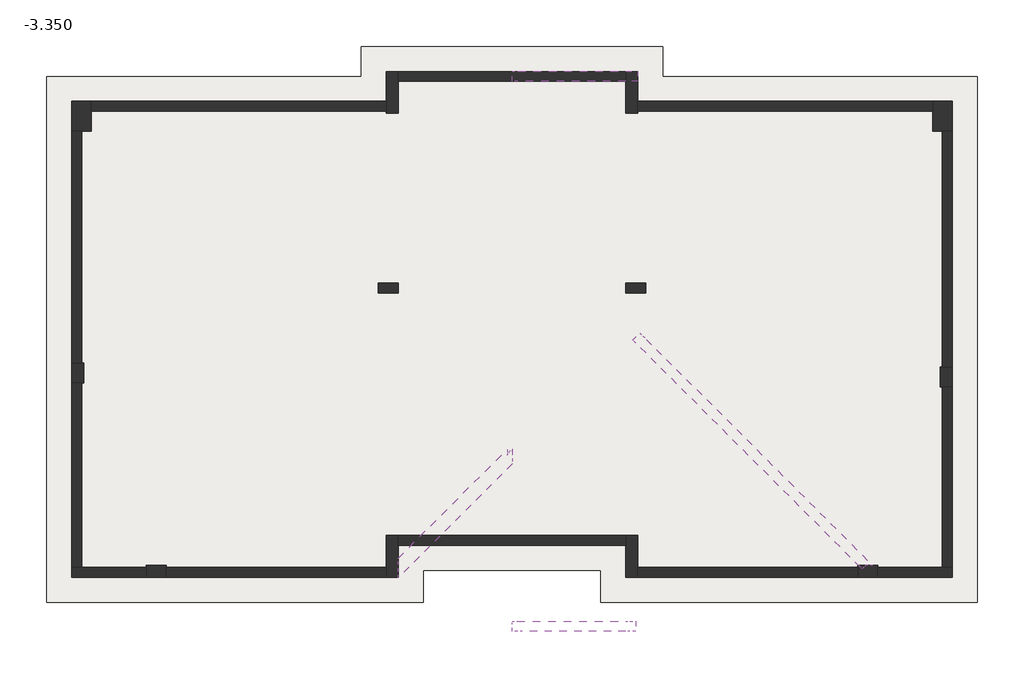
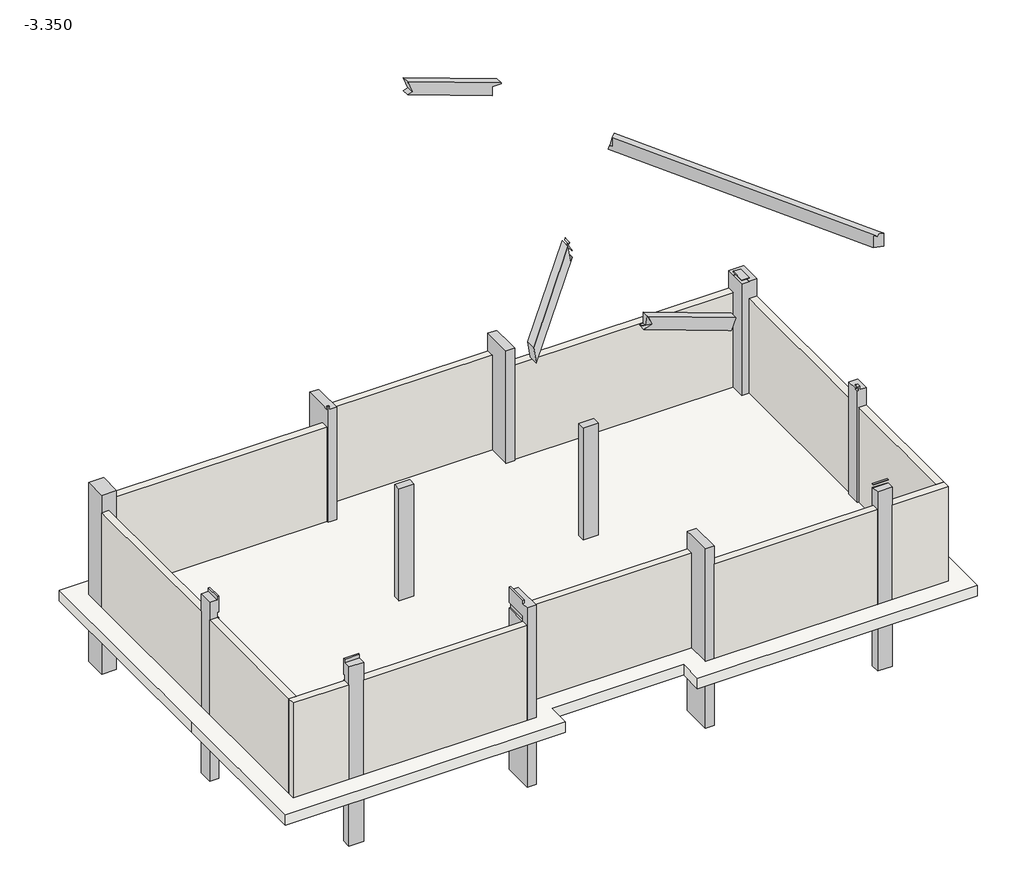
# One storey: 24 columns, 12 walls, 4 beams, 1 slab.
"""IFC4 building model written with IfcOpenShell, lengths in millimetres."""

import ifcopenshell
import ifcopenshell.guid

model = None  # the IFC model being written
_history = None  # IfcOwnerHistory: only IFC2X3 demands one
_inside = {}  # id of a spatial element -> (the spatial element, [elements in it])
_under = {}  # id of a project, library or spatial element -> (it, [spatial elements below it])
_declared = {}  # id of a project -> (the project, [libraries it declares])
_typed = {}  # id of a type object -> (the type object, [elements of that type])
_made_of = {}  # id of a material, layer set ... -> (it, [elements and type objects made of it])


def new_model(schema):
    """Start an empty IFC model of exactly this schema.

    Asked for "IFC4X3", IfcOpenShell would pick the latest addendum, in which some entities
    have other attributes; the version numbers below select the first issue.
    IFC2X3 requires an IfcOwnerHistory on every rooted entity: one is made here for all.
    """
    global model, _history
    if schema == "IFC4X3":
        model = ifcopenshell.file(schema_version=(4, 3, 0, 0))
    else:
        model = ifcopenshell.file(schema=schema)
    _inside.clear()
    _under.clear()
    _declared.clear()
    _typed.clear()
    _made_of.clear()
    _history = None
    if model.schema == "IFC2X3":
        org = make("IfcOrganization", Name="unknown")
        user = make(
            "IfcPersonAndOrganization",
            ThePerson=make("IfcPerson", FamilyName="unknown"),
            TheOrganization=org,
        )
        app = make(
            "IfcApplication",
            ApplicationDeveloper=org,
            Version="unknown",
            ApplicationFullName="unknown",
            ApplicationIdentifier="unknown",
        )
        _history = make(
            "IfcOwnerHistory",
            OwningUser=user,
            OwningApplication=app,
            ChangeAction="ADDED",
            CreationDate=0,
        )
    return model


def make(cls, **values):
    """One entity of the class cls with the attributes given. An attribute that is None is left unset."""
    return model.create_entity(
        cls, **{name: value for name, value in values.items() if value is not None}
    )


def rooted(cls, **values):
    """An entity with a GlobalId (a new one), such as an element, a storey or a relation."""
    return make(cls, GlobalId=ifcopenshell.guid.new(), OwnerHistory=_history, **values)


def si_unit(unit_type, name, prefix=None):
    """IfcSIUnit, for example si_unit("LENGTHUNIT", "METRE", prefix="MILLI")."""
    return make("IfcSIUnit", UnitType=unit_type, Prefix=prefix, Name=name)


def assignment(units):
    """IfcUnitAssignment: the units of a project."""
    return None if units is None else make("IfcUnitAssignment", Units=units)


def point(xyz):
    """IfcCartesianPoint."""
    return None if xyz is None else make("IfcCartesianPoint", Coordinates=xyz)


def direction(xyz):
    """IfcDirection."""
    return None if xyz is None else make("IfcDirection", DirectionRatios=xyz)


def frame(location, z_axis=None, x_axis=None):
    """IfcAxis2Placement3D, a coordinate frame: its origin and axes. An axis left out is left unset."""
    return make(
        "IfcAxis2Placement3D",
        Location=point(location),
        Axis=direction(z_axis),
        RefDirection=direction(x_axis),
    )


def origin():
    """The frame at (0, 0, 0) with its axes left unset."""
    return frame((0.0, 0.0, 0.0))


def place(relative_to, where):
    """IfcLocalPlacement: puts the frame where relative to a parent placement (None: the world)."""
    return make(
        "IfcLocalPlacement", PlacementRelTo=relative_to, RelativePlacement=where
    )


def context(
    kind, dimensions, precision=None, world=None, true_north=None, identifier=None
):
    """IfcGeometricRepresentationContext, for example the 3D "Model" context."""
    return make(
        "IfcGeometricRepresentationContext",
        ContextIdentifier=identifier,
        ContextType=kind,
        CoordinateSpaceDimension=dimensions,
        Precision=precision,
        WorldCoordinateSystem=world,
        TrueNorth=true_north,
    )


def project(units=None, contexts=None):
    """IfcProject with its units and contexts."""
    return rooted(
        "IfcProject",
        Name="project",
        RepresentationContexts=contexts,
        UnitsInContext=assignment(units),
    )


def spatial(cls, under=None, at=None, **own):
    """A site, building, storey or space (cls), placed at a placement, below another one or the project."""
    s = rooted(cls, ObjectPlacement=at, **own)
    if under is not None:
        _under.setdefault(under.id(), (under, []))[1].append(s)
    return s


def polyline(points):
    """IfcPolyline through the points."""
    return make("IfcPolyline", Points=[point(p) for p in points])


def outline(outer, holes=None, kind="AREA"):
    """IfcArbitraryClosedProfileDef: a profile drawn as a closed curve; with holes, ...WithVoids."""
    if holes is None:
        return make("IfcArbitraryClosedProfileDef", ProfileType=kind, OuterCurve=outer)
    return make(
        "IfcArbitraryProfileDefWithVoids",
        ProfileType=kind,
        OuterCurve=outer,
        InnerCurves=holes,
    )


def extrude(swept, where, along, depth):
    """IfcExtrudedAreaSolid: the profile swept, set in the frame where, extruded along a direction by depth."""
    return make(
        "IfcExtrudedAreaSolid",
        SweptArea=swept,
        Position=where,
        ExtrudedDirection=direction(along),
        Depth=depth,
    )


def faces_of(points, faces, orient=None, outer=None):
    """IfcFace entities. A face is a list of loops; a loop is a list of indices into points, from 0.

    orient and outer hold one flag for each loop. By default every Orientation is true, the
    first loop of a face is its IfcFaceOuterBound and the others are IfcFaceBound.
    """
    made = []
    for i, loops in enumerate(faces):
        bounds = []
        for j, loop in enumerate(loops):
            is_outer = j == 0 if outer is None else outer[i][j]
            bounds.append(
                make(
                    "IfcFaceOuterBound" if is_outer else "IfcFaceBound",
                    Bound=make("IfcPolyLoop", Polygon=[points[k] for k in loop]),
                    Orientation=True if orient is None else orient[i][j],
                )
            )
        made.append(make("IfcFace", Bounds=bounds))
    return made


def faceted_brep(points, faces, orient=None, outer=None, voids=None):
    """IfcFacetedBrep: a solid bounded by flat faces; with voids (closed shells), ...WithVoids."""
    shared = [point(p) for p in points]
    hull = make("IfcClosedShell", CfsFaces=faces_of(shared, faces, orient, outer))
    if voids is None:
        return make("IfcFacetedBrep", Outer=hull)
    return make(
        "IfcFacetedBrepWithVoids",
        Outer=hull,
        Voids=[
            make(cls, CfsFaces=faces_of(shared, fs, o, b)) for cls, fs, o, b in voids
        ],
    )


def shape(context_of_items, identifier, shape_type, items):
    """IfcShapeRepresentation: the items that make up one representation, for example the "Body"."""
    return make(
        "IfcShapeRepresentation",
        ContextOfItems=context_of_items,
        RepresentationIdentifier=identifier,
        RepresentationType=shape_type,
        Items=items,
    )


def made_of(thing, what):
    """Note that an element or type object is made of a material, layer set ...; save() writes the relation."""
    if what is not None:
        _made_of.setdefault(what.id(), (what, []))[1].append(thing)
    return thing


def element(
    cls,
    number,
    at=None,
    inside=None,
    cuts=None,
    type_object=None,
    material=None,
    context=None,
    identifier="Body",
    shape_type=None,
    held_by="IfcProductDefinitionShape",
    body=None,
    shapes=None,
    **own,
):
    """One element of the class cls, such as IfcWall. Its Tag is "e" and its number.

    at: its placement. inside: the storey or other place that contains it. cuts: it is an
    opening in that element (IfcRelVoidsElement). A single representation is given by context,
    identifier, shape_type and body (its items); several are given by shapes. held_by: the class
    of the entity that holds the representations. save() writes the other relations.
    """
    e = rooted(cls, Tag="e%d" % number, ObjectPlacement=at, **own)
    if body is not None:
        shapes = [shape(context, identifier, shape_type, body)]
    if shapes is not None:
        e.Representation = make(held_by, Representations=shapes)
    if inside is not None:
        _inside.setdefault(inside.id(), (inside, []))[1].append(e)
    if cuts is not None:
        rooted(
            "IfcRelVoidsElement", RelatingBuildingElement=cuts, RelatedOpeningElement=e
        )
    if type_object is not None:
        _typed.setdefault(type_object.id(), (type_object, []))[1].append(e)
    return made_of(e, material)


def aggregate(whole, parts):
    """IfcRelAggregates: a whole, such as a stair, and the parts it consists of."""
    return rooted("IfcRelAggregates", RelatingObject=whole, RelatedObjects=parts)


def save(model, path):
    """Write the relations noted so far, then the file.

    IfcRelAggregates (storeys below a building ...), IfcRelContainedInSpatialStructure (elements
    in a storey), IfcRelDefinesByType, IfcRelAssociatesMaterial and IfcRelDeclares: one each for
    every whole, place, type object, material and project.
    """
    for whole, parts in _under.values():
        aggregate(whole, parts)
    for where, things in _inside.values():
        rooted(
            "IfcRelContainedInSpatialStructure",
            RelatedElements=things,
            RelatingStructure=where,
        )
    for kind, things in _typed.values():
        rooted("IfcRelDefinesByType", RelatedObjects=things, RelatingType=kind)
    for what, things in _made_of.values():
        rooted("IfcRelAssociatesMaterial", RelatedObjects=things, RelatingMaterial=what)
    for by, libraries in _declared.values():
        rooted("IfcRelDeclares", RelatingContext=by, RelatedDefinitions=libraries)
    model.write(path)


model = new_model("IFC4")

# Units and contexts
model_context = context("Model", 3, world=origin())
ifc_project = project(units=[si_unit("LENGTHUNIT", "METRE", prefix="MILLI")], contexts=[model_context])

# Site, building, storey
site = spatial("IfcSite", under=ifc_project)
building = spatial("IfcBuilding", under=site)
storey = spatial("IfcBuildingStorey", under=building, Name="-3.350", Elevation=-3350.0)

# Beams
placement = place(None, origin())
element("IfcBeam", 1, ObjectType="混凝土 - 矩形梁 : 200X400", at=placement, inside=storey, context=model_context, shape_type="SweptSolid", body=[
    extrude(outline(polyline([(7019.4529888, -2106.1435581), (7936.0669729, -4624.5197818), (7607.1745556, -4504.8127316), (7563.6047525, -4624.5197818), (6733.7526184, -2344.5197818), (6999.7970615, -2344.5197818), (6999.7970615, -2106.1435581), (7019.4529888, -2106.1435581)])), frame((0.0, 3246.0461731, 0.0), z_axis=(0.0, 1.0, 0.0), x_axis=(0.0, 0.0, 1.0)), (0.0, 0.0, 1.0), 200.0),
])
element("IfcBeam", 2, ObjectType="混凝土 - 矩形梁 : 200X400", at=placement, inside=storey, context=model_context, shape_type="Brep", body=[
    faceted_brep([(-2148.8244688, -7573.9538269, 7034.9875699), (-2148.8244688, -7773.9538269, 7034.9875699), (-2154.6434683, -7773.9538269, 7019.0), (-2268.531519, -7773.9538269, 6706.0951526), (-2268.531519, -7573.9538269, 6706.0951526), (-2154.6434683, -7573.9538269, 7019.0), (-4524.5197818, -7573.9538269, 7899.6699495), (-4524.5197818, -7765.8610629, 7899.6699495), (-4509.2494173, -7773.9538269, 7894.1119913), (-2344.5197818, -7573.9538269, 6733.7526184), (-4624.5197818, -7573.9538269, 7563.6047525), (-4624.5197818, -7573.9538269, 7586.0669729), (-4524.5197818, -7573.9538269, 7586.0669729), (-2344.5197818, -7773.9538269, 6733.7526184), (-4624.5197818, -7773.9538269, 7563.6047525), (-4624.5197818, -7630.0487215, 7563.6047525), (-4416.5105095, -7773.9538269, 7639.3139361), (-4524.5197818, -7699.2307843, 7600.001776), (-4562.8053385, -7672.7440464, 7586.0669729), (-4524.5197818, -7696.1324245, 7586.0669729), (-4624.5197818, -7635.0431257, 7586.0669729)], [[[0, 1, 2, 3, 4, 5]], [[1, 0, 6, 7, 8]], [[0, 5, 4, 9, 10, 11, 12, 6]], [[4, 3, 13, 14, 15, 10, 9]], [[3, 2, 1, 8, 16, 14, 13]], [[15, 14, 16, 17, 18]], [[19, 17, 7, 6, 12]], [[18, 19, 12, 11, 20]], [[10, 15, 20, 11]], [[15, 18, 20]], [[17, 19, 18]], [[16, 8, 7, 17]]]),
])
element("IfcBeam", 3, ObjectType="混凝土 - 矩形梁 : 200X400", at=placement, inside=storey, context=model_context, shape_type="Brep", body=[
    faceted_brep([(-2065.49374, -1791.5585125, 8309.6279319), (-2206.9150962, -1932.9798687, 8309.6279319), (-2192.0651085, -1947.8298564, 8391.2279437), (-2144.5197818, -1893.024185, 8371.2803106), (-2144.5197818, -1903.5020917, 8400.0681226), (-2144.5197818, -1950.3866983, 8528.8825206), (-2144.5197818, -1993.9538269, 8648.5822228), (-2097.3173736, -1946.7514188, 8648.5822228), (-2003.8091037, -1853.2431488, 8648.5822228), (-2056.4150821, -1800.6371704, 8359.5147471), (2596.9015745, -6453.9538269, 6974.0604794), (2495.4802182, -6352.5324707, 7010.9748342), (-1933.0984255, -1923.9538269, 8622.8456407), (-2144.5197818, -1995.3751832, 8648.3235571), (2354.058862, -6493.9538269, 7010.9748342), (2384.7695401, -6524.664505, 6999.7970615), (2415.4802182, -6493.9538269, 6999.7970615), (2455.4802182, -6453.9538269, 6999.7970615), (2495.4802182, -6453.9538269, 6992.5176568), (2314.058862, -6453.9538269, 6664.1279812), (2314.058862, -6453.9538269, 6999.7970615), (2354.058862, -6493.9538269, 6999.7970615), (-2144.5197818, -1995.3751832, 8422.9550386), (-2144.5197818, -1995.3751832, 8419.5778433), (-2144.5197818, -1995.3751832, 8405.0), (-2154.2266948, -1985.6682702, 8405.0), (2596.9015745, -6453.9538269, 6612.6548171), (2596.9015745, -6453.9538269, 6669.0), (-2144.5197818, -1985.6682702, 8405.0)], [[[0, 1, 2, 3, 4, 5, 6, 7, 8, 9]], [[10, 11, 12, 8, 7, 6, 13, 14, 15, 16, 17, 18]], [[1, 19, 20, 21, 15, 14, 13, 22, 23, 24, 25, 2]], [[1, 0, 26, 19]], [[0, 9, 8, 12, 11, 10, 27, 26]], [[17, 20, 19, 26, 27, 10, 18]], [[20, 17, 16, 15, 21]], [[13, 6, 5, 4, 3, 28, 24, 23, 22]], [[3, 2, 25, 28]], [[24, 28, 25]]]),
])
element("IfcBeam", 4, ObjectType="混凝土 - 矩形梁 : 200X400", at=placement, inside=storey, context=model_context, shape_type="Brep", body=[
    faceted_brep([(-6904.5197818, -6310.2321874, 7126.4342165), (-6904.5197818, -6584.678701, 7126.4342165), (-4724.5197818, -4404.678701, 7919.8893272), (-4724.5197818, -4168.0656454, 7919.8893272), (-4724.5197818, -4130.2321874, 7919.8893272), (-6904.5197818, -6693.9538269, 6786.4303824), (-6899.3038196, -6699.1697891, 6755.870451), (-4624.5197818, -4424.3857512, 7583.8241302), (-4624.5197818, -4423.6649154, 7586.0669729), (-4724.5197818, -4511.9671376, 7586.0669729), (-6904.5197818, -6693.9538269, 6753.9719961), (-6904.5197818, -6429.9392375, 6753.9719961), (-4624.5197818, -4149.9392375, 7583.8241302), (-4724.5197818, -4147.9737646, 7864.6873383), (-4724.5197818, -4213.3350144, 7661.319231), (-4737.7284492, -4236.6621081, 7625.0287154), (-4724.5197818, -4226.5436818, 7620.2211536), (-4724.5197818, -4237.5206239, 7586.0669729), (-4630.6819414, -4154.6597257, 7586.0669729), (-4724.5197818, -4324.3857512, 7620.2211536), (-4724.5197818, -4311.1770838, 7661.319231), (-4630.6819414, -4418.2235915, 7586.0669729), (-4737.7284492, -4311.1770838, 7625.0287154)], [[[0, 1, 2, 3, 4]], [[5, 6, 7, 8, 9, 2, 1]], [[6, 10, 11, 12, 7]], [[11, 0, 4, 13, 14, 15, 16, 17, 18, 12]], [[6, 5, 10]], [[1, 0, 11, 10, 5]], [[9, 17, 16, 19, 20, 14, 13, 4, 3, 2]], [[7, 21, 8]], [[21, 7, 12, 18]], [[20, 22, 15, 14]], [[17, 9, 8, 21, 18]], [[22, 20, 19]], [[15, 22, 19, 16]]]),
    faceted_brep([(-4511.3111143, -4173.9538269, 7625.0287154), (-4493.1325551, -4018.5520109, 7631.6451699), (-4524.5197818, -4018.5520109, 7717.8808663), (-4524.5197818, -4085.6516048, 7693.4586114), (-4524.5197818, -4173.9538269, 7661.319231), (-4524.5197818, -4213.3350144, 7661.319231), (-4511.3111143, -4236.6621081, 7625.0287154), (-4524.5197818, -4049.9392375, 7620.2211536), (-4524.5197818, -4058.9953501, 7620.2211536), (-4524.5197818, -4226.5436818, 7620.2211536)], [[[0, 1, 2, 3, 4]], [[0, 4, 5, 6]], [[2, 7, 8, 9, 5, 4, 3]], [[1, 0, 6, 9, 8, 7]], [[2, 1, 7]], [[6, 5, 9]]]),
    faceted_brep([(-4624.5197818, -4311.1770838, 7936.0669729), (-4680.0720654, -4360.2309846, 7936.0669729), (-4680.0720654, -4173.9538269, 7936.0669729), (-4624.5197818, -4173.9538269, 7936.0669729), (-4631.0181645, -4311.1770838, 7953.9211327), (-4631.0181645, -4173.9538269, 7953.9211327), (-4624.5197818, -4118.4015433, 7956.2863506)], [[[0, 1, 2, 3]], [[4, 5, 6, 2, 1]], [[0, 4, 1]], [[5, 3, 6]], [[5, 4, 0, 3]], [[3, 2, 6]]]),
    faceted_brep([(-4618.3576221, -4154.6597257, 7586.0669729), (-4618.3576221, -4143.7770779, 7586.0669729), (-4624.5197818, -4149.2184018, 7586.0669729), (-4624.5197818, -4149.9392375, 7583.8241302)], [[[0, 1, 2]], [[1, 0, 3]], [[2, 1, 3]], [[3, 0, 2]]]),
])

# Columns
element("IfcColumn", 5, ObjectType="混凝土 - 矩形 - 柱 : KZ1  200X400", at=placement, inside=storey, context=model_context, shape_type="SweptSolid", body=[
    extrude(outline(polyline([(-7304.5197818, -793.9538269), (-6904.5197818, -793.9538269), (-6904.5197818, -993.9538269), (-7304.5197818, -993.9538269), (-7304.5197818, -793.9538269)])), frame((0.0, 0.0, -5250.0), z_axis=(0.0, 0.0, 1.0), x_axis=(1.0, 0.0, 0.0)), (0.0, 0.0, 1.0), 1600.0),
])
element("IfcColumn", 6, ObjectType="混凝土 - 矩形 - 柱 : KZ1  200X400", at=placement, inside=storey, context=model_context, shape_type="SweptSolid", body=[
    extrude(outline(polyline([(-1944.5197818, -793.9538269), (-1944.5197818, -993.9538269), (-2344.5197818, -993.9538269), (-2344.5197818, -793.9538269), (-1944.5197818, -793.9538269)])), frame((0.0, 0.0, -5250.0), z_axis=(0.0, 0.0, 1.0), x_axis=(1.0, 0.0, 0.0)), (0.0, 0.0, 1.0), 1600.0),
])
element("IfcColumn", 7, ObjectType="混凝土 - 矩形 - 柱 : KZ2  240X400", at=placement, inside=storey, context=model_context, shape_type="SweptSolid", body=[
    extrude(outline(polyline([(-13204.5197818, -2393.9538269), (-13204.5197818, -2793.9538269), (-13444.5197818, -2793.9538269), (-13444.5197818, -2393.9538269), (-13204.5197818, -2393.9538269)])), frame((0.0, 0.0, -5250.0), z_axis=(0.0, 0.0, 1.0), x_axis=(1.0, 0.0, 0.0)), (0.0, 0.0, 1.0), 1600.0),
])
element("IfcColumn", 8, ObjectType="混凝土 - 矩形 - 柱 : KZ2  240X400", at=placement, inside=storey, context=model_context, shape_type="SweptSolid", body=[
    extrude(outline(polyline([(3955.4802182, -2473.9538269), (4195.4802182, -2473.9538269), (4195.4802182, -2873.9538269), (3955.4802182, -2873.9538269), (3955.4802182, -2473.9538269)])), frame((0.0, 0.0, -5250.0), z_axis=(0.0, 0.0, 1.0), x_axis=(1.0, 0.0, 0.0)), (0.0, 0.0, 1.0), 1600.0),
])
element("IfcColumn", 9, ObjectType="混凝土 - 矩形 - 柱 : KZ2  240X400", at=placement, inside=storey, context=model_context, shape_type="SweptSolid", body=[
    extrude(outline(polyline([(-11944.5197818, -6453.9538269), (-11544.5197818, -6453.9538269), (-11544.5197818, -6693.9538269), (-11944.5197818, -6693.9538269), (-11944.5197818, -6453.9538269)])), frame((0.0, 0.0, -5250.0), z_axis=(0.0, 0.0, 1.0), x_axis=(1.0, 0.0, 0.0)), (0.0, 0.0, 1.0), 1600.0),
])
element("IfcColumn", 10, ObjectType="混凝土 - 矩形 - 柱 : KZ2  240X400", at=placement, inside=storey, context=model_context, shape_type="SweptSolid", body=[
    extrude(outline(polyline([(2695.4802182, -6453.9538269), (2695.4802182, -6693.9538269), (2295.4802182, -6693.9538269), (2295.4802182, -6453.9538269), (2695.4802182, -6453.9538269)])), frame((0.0, 0.0, -5250.0), z_axis=(0.0, 0.0, 1.0), x_axis=(1.0, 0.0, 0.0)), (0.0, 0.0, 1.0), 1600.0),
])
element("IfcColumn", 11, ObjectType="混凝土 - 矩形 - 柱 : KZ1  200X400", at=placement, inside=storey, context=model_context, shape_type="Brep", body=[
    faceted_brep([(-7304.5197818, -793.9538269, -3350.0), (-6904.5197818, -793.9538269, -3350.0), (-6904.5197818, -993.9538269, -3350.0), (-7304.5197818, -993.9538269, -3350.0), (-7304.5197818, -793.9538269, -150.0), (-7104.5197818, -793.9538269, -150.0), (-6904.5197818, -793.9538269, -150.0), (-6904.5197818, -793.9538269, -650.0), (-6904.5197818, -993.9538269, -150.0), (-6904.5197818, -993.9538269, -650.0), (-7104.5197818, -993.9538269, -150.0), (-7304.5197818, -993.9538269, -150.0)], [[[0, 1, 2, 3]], [[1, 0, 4, 5, 6, 7]], [[2, 1, 7, 6, 8, 9]], [[3, 2, 9, 8, 10, 11]], [[0, 3, 11, 4]], [[6, 5, 4, 11, 10, 8]]]),
])
element("IfcColumn", 12, ObjectType="混凝土 - 矩形 - 柱 : KZ1  200X400", at=placement, inside=storey, context=model_context, shape_type="Brep", body=[
    faceted_brep([(-1944.5197818, -793.9538269, -3350.0), (-1944.5197818, -993.9538269, -3350.0), (-2344.5197818, -993.9538269, -3350.0), (-2344.5197818, -793.9538269, -3350.0), (-2344.5197818, -793.9538269, -650.0), (-2344.5197818, -793.9538269, -150.0), (-2144.5197818, -793.9538269, -150.0), (-1944.5197818, -793.9538269, -150.0), (-2344.5197818, -993.9538269, -650.0), (-2344.5197818, -993.9538269, -150.0), (-1944.5197818, -993.9538269, -150.0), (-2144.5197818, -993.9538269, -150.0)], [[[0, 1, 2, 3]], [[0, 3, 4, 5, 6, 7]], [[3, 2, 8, 9, 5, 4]], [[2, 1, 10, 11, 9, 8]], [[1, 0, 7, 10]], [[7, 6, 5, 9, 11, 10]]]),
])
element("IfcColumn", 13, ObjectType="混凝土 - 矩形 - 柱 : KZ2  240X400", at=placement, inside=storey, context=model_context, shape_type="Brep", body=[
    faceted_brep([(-13204.5197818, -2393.9538269, -3350.0), (-13204.5197818, -2793.9538269, -3350.0), (-13244.5197818, -2793.9538269, -3350.0), (-13444.5197818, -2793.9538269, -3350.0), (-13444.5197818, -2393.9538269, -3350.0), (-13244.5197818, -2393.9538269, -3350.0), (-13204.5197818, -2393.9538269, -50.0), (-13204.5197818, -2793.9538269, -50.0), (-13204.5197818, -2793.9538269, -500.0), (-13204.5197818, -2393.9538269, -500.0), (-13204.5197818, -2793.9538269, -660.0), (-13244.5197818, -2793.9538269, -660.0), (-13244.5197818, -2793.9538269, -650.0), (-13244.5197818, -2793.9538269, -500.0), (-13244.5197818, -2793.9538269, -50.0), (-13244.5197818, -2793.9538269, -150.0), (-13444.5197818, -2793.9538269, -150.0), (-13444.5197818, -2793.9538269, -650.0), (-13444.5197818, -2393.9538269, -150.0), (-13444.5197818, -2393.9538269, -650.0), (-13244.5197818, -2393.9538269, -150.0), (-13244.5197818, -2393.9538269, -50.0), (-13244.5197818, -2393.9538269, -500.0), (-13244.5197818, -2393.9538269, -650.0), (-13244.5197818, -2393.9538269, -660.0), (-13204.5197818, -2393.9538269, -660.0)], [[[0, 1, 2, 3, 4, 5]], [[6, 7, 8, 9]], [[3, 2, 1, 10, 11, 12, 13, 8, 7, 14, 15, 16, 17]], [[4, 3, 17, 16, 18, 19]], [[0, 5, 4, 19, 18, 20, 21, 6, 9, 22, 23, 24, 25]], [[7, 6, 21, 14]], [[15, 20, 18, 16]], [[20, 15, 14, 21]], [[24, 11, 10, 25]], [[13, 22, 9, 8]], [[11, 24, 23, 22, 13, 12]], [[1, 0, 25, 10]]]),
])
element("IfcColumn", 14, ObjectType="混凝土 - 矩形 - 柱 : KZ2  240X400", at=placement, inside=storey, context=model_context, shape_type="Brep", body=[
    faceted_brep([(3955.4802182, -2473.9538269, -3350.0), (3995.4802182, -2473.9538269, -3350.0), (4195.4802182, -2473.9538269, -3350.0), (4195.4802182, -2873.9538269, -3350.0), (3995.4802182, -2873.9538269, -3350.0), (3955.4802182, -2873.9538269, -3350.0), (3955.4802182, -2873.9538269, -50.0), (3955.4802182, -2773.9538269, -50.0), (3955.4802182, -2773.9538269, -70.0), (3955.4802182, -2873.9538269, -70.0), (4195.4802182, -2873.9538269, -650.0), (4195.4802182, -2873.9538269, -150.0), (4024.4802182, -2873.9538269, -150.0), (4024.4802182, -2873.9538269, -50.0), (3995.4802182, -2873.9538269, -70.0), (3995.4802182, -2873.9538269, -170.0), (3955.4802182, -2873.9538269, -170.0), (4195.4802182, -2473.9538269, -650.0), (4195.4802182, -2473.9538269, -150.0), (3955.4802182, -2473.9538269, -150.0), (4024.4802182, -2773.9538269, -50.0), (4024.4802182, -2773.9538269, -150.0), (3955.4802182, -2773.9538269, -150.0), (3995.4802182, -2773.9538269, -150.0), (3995.4802182, -2773.9538269, -70.0), (3995.4802182, -2773.9538269, -170.0), (3955.4802182, -2773.9538269, -170.0)], [[[0, 1, 2, 3, 4, 5]], [[6, 7, 8, 9]], [[5, 4, 3, 10, 11, 12, 13, 6, 9, 14, 15, 16]], [[3, 2, 17, 18, 11, 10]], [[2, 1, 0, 19, 18, 17]], [[7, 6, 13, 20]], [[21, 12, 11, 18, 19, 22, 23]], [[20, 21, 23, 24, 8, 7]], [[21, 20, 13, 12]], [[15, 25, 26, 16]], [[24, 14, 9, 8]], [[25, 23, 22, 26]], [[23, 25, 15, 14, 24]], [[0, 5, 16, 26, 22, 19]]]),
])
element("IfcColumn", 15, ObjectType="混凝土 - 矩形 - 柱 : KZ2  240X400", at=placement, inside=storey, context=model_context, shape_type="Brep", body=[
    faceted_brep([(-11944.5197818, -6453.9538269, -3350.0), (-11544.5197818, -6453.9538269, -3350.0), (-11544.5197818, -6493.9538269, -3350.0), (-11544.5197818, -6693.9538269, -3350.0), (-11944.5197818, -6693.9538269, -3350.0), (-11944.5197818, -6493.9538269, -3350.0), (-11944.5197818, -6453.9538269, -50.0), (-11544.5197818, -6453.9538269, -50.0), (-11544.5197818, -6453.9538269, -500.0), (-11944.5197818, -6453.9538269, -500.0), (-11544.5197818, -6453.9538269, -660.0), (-11544.5197818, -6493.9538269, -660.0), (-11544.5197818, -6493.9538269, -650.0), (-11544.5197818, -6493.9538269, -500.0), (-11544.5197818, -6493.9538269, -50.0), (-11544.5197818, -6493.9538269, -150.0), (-11544.5197818, -6693.9538269, -150.0), (-11544.5197818, -6693.9538269, -650.0), (-11944.5197818, -6693.9538269, -150.0), (-11944.5197818, -6693.9538269, -650.0), (-11944.5197818, -6493.9538269, -150.0), (-11944.5197818, -6493.9538269, -50.0), (-11944.5197818, -6493.9538269, -500.0), (-11944.5197818, -6493.9538269, -650.0), (-11944.5197818, -6493.9538269, -660.0), (-11944.5197818, -6453.9538269, -660.0)], [[[0, 1, 2, 3, 4, 5]], [[6, 7, 8, 9]], [[3, 2, 1, 10, 11, 12, 13, 8, 7, 14, 15, 16, 17]], [[4, 3, 17, 16, 18, 19]], [[0, 5, 4, 19, 18, 20, 21, 6, 9, 22, 23, 24, 25]], [[7, 6, 21, 14]], [[15, 20, 18, 16]], [[20, 15, 14, 21]], [[24, 11, 10, 25]], [[13, 22, 9, 8]], [[11, 24, 23, 22, 13, 12]], [[1, 0, 25, 10]]]),
])
element("IfcColumn", 16, ObjectType="混凝土 - 矩形 - 柱 : KZ2  240X400", at=placement, inside=storey, context=model_context, shape_type="Brep", body=[
    faceted_brep([(2695.4802182, -6453.9538269, -3350.0), (2695.4802182, -6493.9538269, -3350.0), (2695.4802182, -6693.9538269, -3350.0), (2295.4802182, -6693.9538269, -3350.0), (2295.4802182, -6493.9538269, -3350.0), (2295.4802182, -6453.9538269, -3350.0), (2695.4802182, -6693.9538269, -650.0), (2695.4802182, -6693.9538269, -150.0), (2295.4802182, -6693.9538269, -150.0), (2295.4802182, -6693.9538269, -650.0), (2295.4802182, -6493.9538269, -150.0), (2695.4802182, -6493.9538269, -150.0), (2295.4802182, -6493.9538269, -170.0), (2695.4802182, -6493.9538269, -170.0), (2695.4802182, -6453.9538269, -170.0), (2295.4802182, -6453.9538269, -170.0)], [[[0, 1, 2, 3, 4, 5]], [[3, 2, 6, 7, 8, 9]], [[10, 8, 7, 11]], [[12, 13, 14, 15]], [[13, 12, 10, 11]], [[0, 5, 15, 14]], [[5, 4, 3, 9, 8, 10, 12, 15]], [[2, 1, 0, 14, 13, 11, 7, 6]]]),
    faceted_brep([(2295.4802182, -6453.9538269, -50.0), (2695.4802182, -6453.9538269, -50.0), (2695.4802182, -6453.9538269, -70.0), (2295.4802182, -6453.9538269, -70.0), (2295.4802182, -6493.9538269, -50.0), (2295.4802182, -6493.9538269, -70.0), (2695.4802182, -6493.9538269, -50.0), (2695.4802182, -6493.9538269, -70.0)], [[[0, 1, 2, 3]], [[4, 0, 3, 5]], [[1, 6, 7, 2]], [[1, 0, 4, 6]], [[6, 4, 5, 7]], [[3, 2, 7, 5]]]),
])
element("IfcColumn", 17, ObjectType="混凝土 - 矩形 - 柱 : KZ3 400X600", at=placement, inside=storey, context=model_context, shape_type="SweptSolid", body=[
    extrude(outline(polyline([(-13044.5197818, 2846.0461731), (-13044.5197818, 2246.0461731), (-13444.5197818, 2246.0461731), (-13444.5197818, 2846.0461731), (-13044.5197818, 2846.0461731)])), frame((0.0, 0.0, -5250.0), z_axis=(0.0, 0.0, 1.0), x_axis=(1.0, 0.0, 0.0)), (0.0, 0.0, 1.0), 1600.0),
])
element("IfcColumn", 18, ObjectType="混凝土 - 矩形 - 柱 : KZ3 400X600", at=placement, inside=storey, context=model_context, shape_type="SweptSolid", body=[
    extrude(outline(polyline([(3795.4802182, 2846.0461731), (4195.4802182, 2846.0461731), (4195.4802182, 2246.0461731), (3795.4802182, 2246.0461731), (3795.4802182, 2846.0461731)])), frame((0.0, 0.0, -5250.0), z_axis=(0.0, 0.0, 1.0), x_axis=(1.0, 0.0, 0.0)), (0.0, 0.0, 1.0), 1600.0),
])
element("IfcColumn", 19, ObjectType="混凝土 - 矩形 - 柱 : KZ3 400X600", at=placement, inside=storey, context=model_context, shape_type="Brep", body=[
    faceted_brep([(-13044.5197818, 2846.0461731, -3350.0), (-13044.5197818, 2646.0461731, -3350.0), (-13044.5197818, 2246.0461731, -3350.0), (-13244.5197818, 2246.0461731, -3350.0), (-13444.5197818, 2246.0461731, -3350.0), (-13444.5197818, 2846.0461731, -3350.0), (-13044.5197818, 2846.0461731, -650.0), (-13044.5197818, 2846.0461731, -150.0), (-13044.5197818, 2246.0461731, -150.0), (-13444.5197818, 2246.0461731, -150.0), (-13444.5197818, 2246.0461731, -650.0), (-13444.5197818, 2846.0461731, -150.0)], [[[0, 1, 2, 3, 4, 5]], [[2, 1, 0, 6, 7, 8]], [[4, 3, 2, 8, 9, 10]], [[5, 4, 10, 9, 11]], [[0, 5, 11, 7, 6]], [[8, 7, 11, 9]]]),
])
element("IfcColumn", 20, ObjectType="混凝土 - 矩形 - 柱 : KZ3 400X600", at=placement, inside=storey, context=model_context, shape_type="Brep", body=[
    faceted_brep([(3795.4802182, 2846.0461731, -3350.0), (4195.4802182, 2846.0461731, -3350.0), (4195.4802182, 2246.0461731, -3350.0), (3995.4802182, 2246.0461731, -3350.0), (3795.4802182, 2246.0461731, -3350.0), (3795.4802182, 2646.0461731, -3350.0), (4195.4802182, 2846.0461731, -150.0), (4195.4802182, 2246.0461731, -150.0), (4195.4802182, 2246.0461731, -650.0), (3795.4802182, 2846.0461731, -650.0), (3795.4802182, 2846.0461731, -150.0), (3795.4802182, 2646.0461731, -150.0), (3995.4802182, 2646.0461731, -150.0), (3995.4802182, 2246.0461731, -150.0), (3995.4802182, 2646.0461731, -170.0), (3795.4802182, 2646.0461731, -170.0), (3795.4802182, 2246.0461731, -170.0), (3995.4802182, 2246.0461731, -170.0)], [[[0, 1, 2, 3, 4, 5]], [[2, 1, 6, 7, 8]], [[1, 0, 9, 10, 6]], [[10, 11, 12, 13, 7, 6]], [[14, 15, 16, 17]], [[12, 14, 17, 13]], [[14, 12, 11, 15]], [[0, 5, 4, 16, 15, 11, 10, 9]], [[4, 3, 2, 8, 7, 13, 17, 16]]]),
    faceted_brep([(3795.4802182, 2246.0461731, -50.0), (3795.4802182, 2646.0461731, -50.0), (3795.4802182, 2646.0461731, -70.0), (3795.4802182, 2246.0461731, -70.0), (3995.4802182, 2246.0461731, -50.0), (3995.4802182, 2246.0461731, -70.0), (3995.4802182, 2646.0461731, -50.0), (3995.4802182, 2646.0461731, -70.0)], [[[0, 1, 2, 3]], [[4, 0, 3, 5]], [[1, 0, 4, 6]], [[1, 6, 7, 2]], [[6, 4, 5, 7]], [[3, 2, 7, 5]]]),
])
element("IfcColumn", 21, ObjectType="混凝土 - 矩形 - 柱 : KZ4 240X840", at=placement, inside=storey, context=model_context, shape_type="SweptSolid", body=[
    extrude(outline(polyline([(-7144.5197818, -6693.9538269), (-7144.5197818, -5853.9538269), (-6904.5197818, -5853.9538269), (-6904.5197818, -6693.9538269), (-7144.5197818, -6693.9538269)])), frame((0.0, 0.0, -5250.0), z_axis=(0.0, 0.0, 1.0), x_axis=(1.0, 0.0, 0.0)), (0.0, 0.0, 1.0), 1600.0),
])
element("IfcColumn", 22, ObjectType="混凝土 - 矩形 - 柱 : KZ4 240X840", at=placement, inside=storey, context=model_context, shape_type="SweptSolid", body=[
    extrude(outline(polyline([(-2104.5197818, -6693.9538269), (-2344.5197818, -6693.9538269), (-2344.5197818, -5853.9538269), (-2104.5197818, -5853.9538269), (-2104.5197818, -6693.9538269)])), frame((0.0, 0.0, -5250.0), z_axis=(0.0, 0.0, 1.0), x_axis=(1.0, 0.0, 0.0)), (0.0, 0.0, 1.0), 1600.0),
])
element("IfcColumn", 23, ObjectType="混凝土 - 矩形 - 柱 : KZ4 240X840", at=placement, inside=storey, context=model_context, shape_type="SweptSolid", body=[
    extrude(outline(polyline([(-7144.5197818, 2606.0461731), (-7144.5197818, 3446.0461731), (-6904.5197818, 3446.0461731), (-6904.5197818, 2606.0461731), (-7144.5197818, 2606.0461731)])), frame((0.0, 0.0, -5250.0), z_axis=(0.0, 0.0, 1.0), x_axis=(1.0, 0.0, 0.0)), (0.0, 0.0, 1.0), 1600.0),
])
element("IfcColumn", 24, ObjectType="混凝土 - 矩形 - 柱 : KZ4 240X840", at=placement, inside=storey, context=model_context, shape_type="SweptSolid", body=[
    extrude(outline(polyline([(-2104.5197818, 2606.0461731), (-2344.5197818, 2606.0461731), (-2344.5197818, 3446.0461731), (-2104.5197818, 3446.0461731), (-2104.5197818, 2606.0461731)])), frame((0.0, 0.0, -5250.0), z_axis=(0.0, 0.0, 1.0), x_axis=(1.0, 0.0, 0.0)), (0.0, 0.0, 1.0), 1600.0),
])
element("IfcColumn", 25, ObjectType="混凝土 - 矩形 - 柱 : KZ4 240X840", at=placement, inside=storey, context=model_context, shape_type="Brep", body=[
    faceted_brep([(-7144.5197818, -6693.9538269, -3350.0), (-7144.5197818, -6493.9538269, -3350.0), (-7144.5197818, -5853.9538269, -3350.0), (-6904.5197818, -5853.9538269, -3350.0), (-6904.5197818, -6053.9538269, -3350.0), (-6904.5197818, -6693.9538269, -3350.0), (-7144.5197818, -6693.9538269, -650.0), (-7144.5197818, -6693.9538269, -150.0), (-7144.5197818, -6493.9538269, -150.0), (-7144.5197818, -6493.9538269, -50.0), (-7144.5197818, -5853.9538269, -50.0), (-7144.5197818, -5853.9538269, -500.0), (-7144.5197818, -6493.9538269, -500.0), (-7144.5197818, -6493.9538269, -650.0), (-7144.5197818, -6493.9538269, -660.0), (-7144.5197818, -5853.9538269, -660.0), (-7104.5197818, -5853.9538269, -660.0), (-7104.5197818, -5853.9538269, -500.0), (-7104.5197818, -5853.9538269, -50.0), (-7104.5197818, -5853.9538269, -150.0), (-6904.5197818, -5853.9538269, -150.0), (-6904.5197818, -5853.9538269, -650.0), (-6904.5197818, -6053.9538269, -150.0), (-6904.5197818, -6693.9538269, -150.0), (-7104.5197818, -6493.9538269, -50.0), (-7104.5197818, -6493.9538269, -150.0), (-7104.5197818, -6493.9538269, -660.0), (-7104.5197818, -6493.9538269, -500.0)], [[[0, 1, 2, 3, 4, 5]], [[2, 1, 0, 6, 7, 8, 9, 10, 11, 12, 13, 14, 15]], [[3, 2, 15, 16, 17, 11, 10, 18, 19, 20, 21]], [[5, 4, 3, 21, 20, 22, 23]], [[0, 5, 23, 7, 6]], [[18, 10, 9, 24]], [[19, 25, 8, 7, 23, 22, 20]], [[25, 24, 9, 8]], [[24, 25, 19, 18]], [[26, 16, 15, 14]], [[27, 12, 11, 17]], [[27, 26, 14, 13, 12]], [[26, 27, 17, 16]]]),
])
element("IfcColumn", 26, ObjectType="混凝土 - 矩形 - 柱 : KZ4 240X840", at=placement, inside=storey, context=model_context, shape_type="Brep", body=[
    faceted_brep([(-2104.5197818, -6693.9538269, -3350.0), (-2344.5197818, -6693.9538269, -3350.0), (-2344.5197818, -6053.9538269, -3350.0), (-2344.5197818, -5853.9538269, -3350.0), (-2104.5197818, -5853.9538269, -3350.0), (-2104.5197818, -6493.9538269, -3350.0), (-2104.5197818, -5853.9538269, -150.0), (-2104.5197818, -6693.9538269, -150.0), (-2104.5197818, -6693.9538269, -650.0), (-2344.5197818, -5853.9538269, -650.0), (-2344.5197818, -5853.9538269, -150.0), (-2344.5197818, -6693.9538269, -150.0), (-2344.5197818, -6053.9538269, -150.0)], [[[0, 1, 2, 3, 4, 5]], [[0, 5, 4, 6, 7, 8]], [[4, 3, 9, 10, 6]], [[3, 2, 1, 11, 12, 10, 9]], [[1, 0, 8, 7, 11]], [[7, 6, 10, 12, 11]]]),
])
element("IfcColumn", 27, ObjectType="混凝土 - 矩形 - 柱 : KZ4 240X840", at=placement, inside=storey, context=model_context, shape_type="Brep", body=[
    faceted_brep([(-7144.5197818, 2606.0461731, -3350.0), (-7144.5197818, 2646.0461731, -3350.0), (-7144.5197818, 2846.0461731, -3350.0), (-7144.5197818, 3446.0461731, -3350.0), (-6904.5197818, 3446.0461731, -3350.0), (-6904.5197818, 3246.0461731, -3350.0), (-6904.5197818, 2606.0461731, -3350.0), (-7144.5197818, 2606.0461731, -50.0), (-7144.5197818, 2646.0461731, -50.0), (-7144.5197818, 2646.0461731, -150.0), (-7144.5197818, 2846.0461731, -150.0), (-7144.5197818, 3446.0461731, -150.0), (-6904.5197818, 3446.0461731, -150.0), (-6904.5197818, 3446.0461731, -650.0), (-6904.5197818, 3246.0461731, -150.0), (-6904.5197818, 2606.0461731, -150.0), (-7104.5197818, 2606.0461731, -150.0), (-7104.5197818, 2606.0461731, -50.0), (-7104.5197818, 2646.0461731, -50.0), (-7104.5197818, 2646.0461731, -150.0)], [[[0, 1, 2, 3, 4, 5, 6]], [[3, 2, 1, 0, 7, 8, 9, 10, 11]], [[4, 3, 11, 12, 13]], [[6, 5, 4, 13, 12, 14, 15]], [[0, 6, 15, 16, 17, 7]], [[7, 17, 18, 8]], [[9, 19, 16, 15, 14, 12, 11, 10]], [[19, 18, 17, 16]], [[18, 19, 9, 8]]]),
])
element("IfcColumn", 28, ObjectType="混凝土 - 矩形 - 柱 : KZ4 240X840", at=placement, inside=storey, context=model_context, shape_type="Brep", body=[
    faceted_brep([(-2104.5197818, 2606.0461731, -3350.0), (-2344.5197818, 2606.0461731, -3350.0), (-2344.5197818, 3246.0461731, -3350.0), (-2344.5197818, 3446.0461731, -3350.0), (-2104.5197818, 3446.0461731, -3350.0), (-2104.5197818, 2846.0461731, -3350.0), (-2104.5197818, 2646.0461731, -3350.0), (-2104.5197818, 3446.0461731, -150.0), (-2104.5197818, 2846.0461731, -150.0), (-2104.5197818, 2606.0461731, -150.0), (-2344.5197818, 3446.0461731, -650.0), (-2344.5197818, 3446.0461731, -150.0), (-2344.5197818, 2606.0461731, -150.0), (-2344.5197818, 3246.0461731, -150.0)], [[[0, 1, 2, 3, 4, 5, 6]], [[0, 6, 5, 4, 7, 8, 9]], [[4, 3, 10, 11, 7]], [[3, 2, 1, 12, 13, 11, 10]], [[1, 0, 9, 12]], [[8, 7, 11, 13, 12, 9]]]),
])

# Slab
element("IfcSlab", 29, ObjectType="底板-300mm", at=placement, inside=storey, context=model_context, shape_type="SweptSolid", body=[
    extrude(outline(polyline([(-13944.5197818, -2806.7654625), (-13944.5197818, 3346.0461731), (-7644.5197818, 3346.0461731), (-7644.5197818, 3946.0461731), (-1604.5197818, 3946.0461731), (-1604.5197818, 3346.0461731), (4695.4802182, 3346.0461731), (4695.4802182, -2508.1450259), (4695.4802182, -7193.9538269), (-2844.5197818, -7193.9538269), (-2844.5197818, -6553.9538269), (-6404.5197818, -6553.9538269), (-6404.5197818, -7193.9538269), (-13944.5197818, -7193.9538269), (-13944.5197818, -2806.7654625)])), frame((0.0, 0.0, -3650.0), z_axis=(0.0, 0.0, 1.0), x_axis=(1.0, 0.0, 0.0)), (0.0, 0.0, 1.0), 300.0),
])

# Walls
element("IfcWall", 30, ObjectType="地下室侧壁-200mm", at=placement, inside=storey, context=model_context, shape_type="SweptSolid", body=[
    extrude(outline(polyline([(-7144.5197818, 2646.0461731), (-13044.5197818, 2646.0461731), (-13044.5197818, 2846.0461731), (-7144.5197818, 2846.0461731), (-7144.5197818, 2646.0461731)])), frame((0.0, 0.0, -3350.0), z_axis=(0.0, 0.0, 1.0), x_axis=(1.0, 0.0, 0.0)), (0.0, 0.0, 1.0), 2700.0),
])
element("IfcWall", 31, ObjectType="地下室侧壁-200mm", at=placement, inside=storey, context=model_context, shape_type="SweptSolid", body=[
    extrude(outline(polyline([(-2344.5197818, 3246.0461731), (-6904.5197818, 3246.0461731), (-6904.5197818, 3446.0461731), (-2344.5197818, 3446.0461731), (-2344.5197818, 3246.0461731)])), frame((0.0, 0.0, -3350.0), z_axis=(0.0, 0.0, 1.0), x_axis=(1.0, 0.0, 0.0)), (0.0, 0.0, 1.0), 2700.0),
])
element("IfcWall", 32, ObjectType="地下室侧壁-200mm", at=placement, inside=storey, context=model_context, shape_type="Brep", body=[
    faceted_brep([(-13244.5197818, -2393.9538269, -3350.0), (-13244.5197818, 2246.0461731, -3350.0), (-13244.5197818, 2246.0461731, -650.0), (-13244.5197818, -2393.9538269, -650.0), (-13244.5197818, -2393.9538269, -660.0), (-13444.5197818, -2393.9538269, -3350.0), (-13444.5197818, -2393.9538269, -650.0), (-13444.5197818, 2246.0461731, -650.0), (-13444.5197818, 2246.0461731, -3350.0)], [[[0, 1, 2, 3, 4]], [[5, 6, 7, 8]], [[1, 0, 5, 8]], [[2, 1, 8, 7]], [[3, 2, 7, 6]], [[0, 4, 3, 6, 5]]]),
])
element("IfcWall", 33, ObjectType="地下室侧壁-200mm", at=placement, inside=storey, context=model_context, shape_type="Brep", body=[
    faceted_brep([(-11944.5197818, -6493.9538269, -3350.0), (-13244.5197818, -6493.9538269, -3350.0), (-13444.5197818, -6493.9538269, -3350.0), (-13444.5197818, -6493.9538269, -650.0), (-13244.5197818, -6493.9538269, -650.0), (-11944.5197818, -6493.9538269, -650.0), (-11944.5197818, -6493.9538269, -660.0), (-11944.5197818, -6693.9538269, -3350.0), (-11944.5197818, -6693.9538269, -650.0), (-13444.5197818, -6693.9538269, -650.0), (-13444.5197818, -6693.9538269, -3350.0)], [[[0, 1, 2, 3, 4, 5, 6]], [[7, 8, 9, 10]], [[2, 1, 0, 7, 10]], [[5, 4, 3, 9, 8]], [[0, 6, 5, 8, 7]], [[3, 2, 10, 9]]]),
])
element("IfcWall", 34, ObjectType="地下室侧壁-200mm", at=placement, inside=storey, context=model_context, shape_type="Brep", body=[
    faceted_brep([(-13244.5197818, -6493.9538269, -3350.0), (-13244.5197818, -2793.9538269, -3350.0), (-13244.5197818, -2793.9538269, -660.0), (-13244.5197818, -2793.9538269, -650.0), (-13244.5197818, -6493.9538269, -650.0), (-13444.5197818, -6493.9538269, -3350.0), (-13444.5197818, -6493.9538269, -650.0), (-13444.5197818, -2793.9538269, -650.0), (-13444.5197818, -2793.9538269, -3350.0)], [[[0, 1, 2, 3, 4]], [[5, 6, 7, 8]], [[1, 0, 5, 8]], [[3, 2, 1, 8, 7]], [[4, 3, 7, 6]], [[0, 4, 6, 5]]]),
])
element("IfcWall", 35, ObjectType="地下室侧壁-200mm", at=placement, inside=storey, context=model_context, shape_type="Brep", body=[
    faceted_brep([(-7144.5197818, -6493.9538269, -3350.0), (-11544.5197818, -6493.9538269, -3350.0), (-11544.5197818, -6493.9538269, -660.0), (-11544.5197818, -6493.9538269, -650.0), (-7144.5197818, -6493.9538269, -650.0), (-7144.5197818, -6493.9538269, -660.0), (-7144.5197818, -6693.9538269, -3350.0), (-7144.5197818, -6693.9538269, -650.0), (-11544.5197818, -6693.9538269, -650.0), (-11544.5197818, -6693.9538269, -3350.0)], [[[0, 1, 2, 3, 4, 5]], [[6, 7, 8, 9]], [[1, 0, 6, 9]], [[3, 2, 1, 9, 8]], [[4, 3, 8, 7]], [[0, 5, 4, 7, 6]]]),
])
element("IfcWall", 36, ObjectType="地下室侧壁-200mm", at=placement, inside=storey, context=model_context, shape_type="SweptSolid", body=[
    extrude(outline(polyline([(-2344.5197818, -6053.9538269), (-6904.5197818, -6053.9538269), (-6904.5197818, -5853.9538269), (-2344.5197818, -5853.9538269), (-2344.5197818, -6053.9538269)])), frame((0.0, 0.0, -3350.0), z_axis=(0.0, 0.0, 1.0), x_axis=(1.0, 0.0, 0.0)), (0.0, 0.0, 1.0), 2700.0),
])
element("IfcWall", 37, ObjectType="地下室侧壁-200mm", at=placement, inside=storey, context=model_context, shape_type="SweptSolid", body=[
    extrude(outline(polyline([(-2104.5197818, 2846.0461731), (3795.4802182, 2846.0461731), (3795.4802182, 2646.0461731), (-2104.5197818, 2646.0461731), (-2104.5197818, 2846.0461731)])), frame((0.0, 0.0, -3350.0), z_axis=(0.0, 0.0, 1.0), x_axis=(1.0, 0.0, 0.0)), (0.0, 0.0, 1.0), 2700.0),
])
element("IfcWall", 38, ObjectType="地下室侧壁-200mm", at=placement, inside=storey, context=model_context, shape_type="SweptSolid", body=[
    extrude(outline(polyline([(4195.4802182, 2246.0461731), (4195.4802182, -2473.9538269), (3995.4802182, -2473.9538269), (3995.4802182, 2246.0461731), (4195.4802182, 2246.0461731)])), frame((0.0, 0.0, -3350.0), z_axis=(0.0, 0.0, 1.0), x_axis=(1.0, 0.0, 0.0)), (0.0, 0.0, 1.0), 2700.0),
])
element("IfcWall", 39, ObjectType="地下室侧壁-200mm", at=placement, inside=storey, context=model_context, shape_type="Brep", body=[
    faceted_brep([(2695.4802182, -6693.9538269, -3350.0), (4195.4802182, -6693.9538269, -3350.0), (4195.4802182, -6693.9538269, -650.0), (2695.4802182, -6693.9538269, -650.0), (2695.4802182, -6493.9538269, -3350.0), (2695.4802182, -6493.9538269, -650.0), (3995.4802182, -6493.9538269, -650.0), (4195.4802182, -6493.9538269, -650.0), (4195.4802182, -6493.9538269, -3350.0), (3995.4802182, -6493.9538269, -3350.0)], [[[0, 1, 2, 3]], [[4, 5, 6, 7, 8, 9]], [[1, 0, 4, 9, 8]], [[3, 2, 7, 6, 5]], [[0, 3, 5, 4]], [[2, 1, 8, 7]]]),
])
element("IfcWall", 40, ObjectType="地下室侧壁-200mm", at=placement, inside=storey, context=model_context, shape_type="SweptSolid", body=[
    extrude(outline(polyline([(4195.4802182, -2873.9538269), (4195.4802182, -6493.9538269), (3995.4802182, -6493.9538269), (3995.4802182, -2873.9538269), (4195.4802182, -2873.9538269)])), frame((0.0, 0.0, -3350.0), z_axis=(0.0, 0.0, 1.0), x_axis=(1.0, 0.0, 0.0)), (0.0, 0.0, 1.0), 2700.0),
])
element("IfcWall", 41, ObjectType="地下室侧壁-200mm", at=placement, inside=storey, context=model_context, shape_type="SweptSolid", body=[
    extrude(outline(polyline([(2295.4802182, -6693.9538269), (-2104.5197818, -6693.9538269), (-2104.5197818, -6493.9538269), (2295.4802182, -6493.9538269), (2295.4802182, -6693.9538269)])), frame((0.0, 0.0, -3350.0), z_axis=(0.0, 0.0, 1.0), x_axis=(1.0, 0.0, 0.0)), (0.0, 0.0, 1.0), 2700.0),
])

save(model, "model.ifc")
